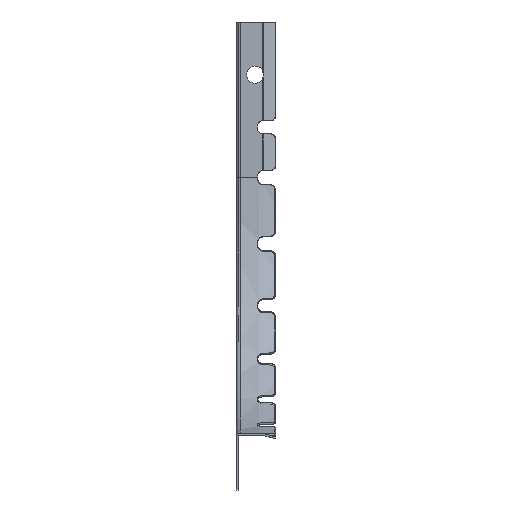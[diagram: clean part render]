
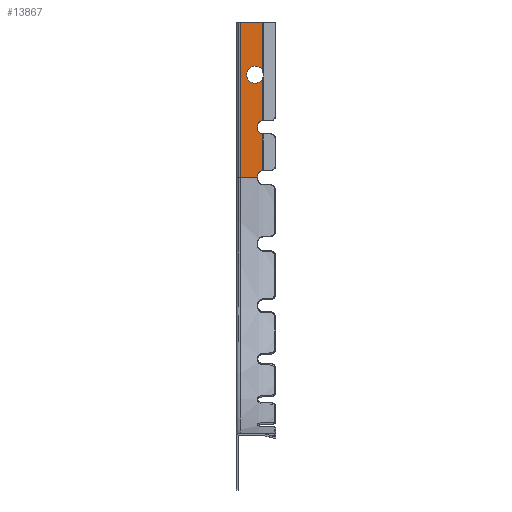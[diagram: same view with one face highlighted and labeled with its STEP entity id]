
A CAD part, left-side view. The second image highlights one B-rep face of the part: STEP entity #13867.
In plain terms, the highlighted planar face has unit normal (-1, 0, 0).
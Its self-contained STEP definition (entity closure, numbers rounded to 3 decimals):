
#2 = DIRECTION ( 'NONE',  ( 0., -1., 0. ) ) ;
#33 = EDGE_CURVE ( 'NONE', #15120, #4636, #12359, .T. ) ;
#83 = DIRECTION ( 'NONE',  ( 1., 0., 0. ) ) ;
#353 = DIRECTION ( 'NONE',  ( 0., 0., 1. ) ) ;
#453 = LINE ( 'NONE', #8797, #17325 ) ;
#481 = EDGE_CURVE ( 'NONE', #8565, #15120, #2479, .T. ) ;
#843 = AXIS2_PLACEMENT_3D ( 'NONE', #14091, #15526, #1682 ) ;
#1136 = DIRECTION ( 'NONE',  ( 0., 0., -1. ) ) ;
#1141 = ORIENTED_EDGE ( 'NONE', *, *, #10821, .F. ) ;
#1204 = VERTEX_POINT ( 'NONE', #4169 ) ;
#1403 = CARTESIAN_POINT ( 'NONE',  ( -50.7, -9.195, 207. ) ) ;
#1409 = ORIENTED_EDGE ( 'NONE', *, *, #33, .T. ) ;
#1564 = ORIENTED_EDGE ( 'NONE', *, *, #1765, .F. ) ;
#1682 = DIRECTION ( 'NONE',  ( 0., 0., -1. ) ) ;
#1765 = EDGE_CURVE ( 'NONE', #4780, #15911, #9040, .T. ) ;
#2211 = AXIS2_PLACEMENT_3D ( 'NONE', #12962, #14045, #4455 ) ;
#2285 = LINE ( 'NONE', #6476, #12717 ) ;
#2298 = ORIENTED_EDGE ( 'NONE', *, *, #8531, .T. ) ;
#2433 = CARTESIAN_POINT ( 'NONE',  ( -50.7, -9.195, 169.484 ) ) ;
#2479 = CIRCLE ( 'NONE', #11183, 3.25 ) ;
#2506 = EDGE_CURVE ( 'NONE', #4320, #9372, #11239, .T. ) ;
#2626 = VECTOR ( 'NONE', #8532, 1000. ) ;
#2680 = DIRECTION ( 'NONE',  ( 1., 0., 0. ) ) ;
#2842 = VERTEX_POINT ( 'NONE', #5324 ) ;
#2898 = LINE ( 'NONE', #13858, #14186 ) ;
#3580 = CARTESIAN_POINT ( 'NONE',  ( -50.7, -7.445, 148.01 ) ) ;
#3734 = DIRECTION ( 'NONE',  ( 1., 0., 0. ) ) ;
#3816 = CARTESIAN_POINT ( 'NONE',  ( -50.7, -6.445, 187. ) ) ;
#4021 = ORIENTED_EDGE ( 'NONE', *, *, #5912, .T. ) ;
#4158 = CARTESIAN_POINT ( 'NONE',  ( -50.7, -7.445, 148.51 ) ) ;
#4169 = CARTESIAN_POINT ( 'NONE',  ( -50.7, -9.195, 150.494 ) ) ;
#4320 = VERTEX_POINT ( 'NONE', #2433 ) ;
#4434 = CARTESIAN_POINT ( 'NONE',  ( -50.7, -6.445, 183.75 ) ) ;
#4455 = DIRECTION ( 'NONE',  ( 0., 0., -1. ) ) ;
#4537 = EDGE_CURVE ( 'NONE', #14136, #8565, #10925, .T. ) ;
#4636 = VERTEX_POINT ( 'NONE', #1403 ) ;
#4661 = ORIENTED_EDGE ( 'NONE', *, *, #8163, .F. ) ;
#4780 = VERTEX_POINT ( 'NONE', #3580 ) ;
#5236 = AXIS2_PLACEMENT_3D ( 'NONE', #16613, #83, #353 ) ;
#5270 = ORIENTED_EDGE ( 'NONE', *, *, #12569, .T. ) ;
#5324 = CARTESIAN_POINT ( 'NONE',  ( -50.7, -0.8, 207. ) ) ;
#5365 = FACE_OUTER_BOUND ( 'NONE', #15853, .T. ) ;
#5716 = DIRECTION ( 'NONE',  ( 0., 0., 1. ) ) ;
#5844 = ORIENTED_EDGE ( 'NONE', *, *, #4537, .T. ) ;
#5912 = EDGE_CURVE ( 'NONE', #4780, #13983, #8666, .T. ) ;
#5986 = CARTESIAN_POINT ( 'NONE',  ( -50.7, -9.195, 148.01 ) ) ;
#6136 = CARTESIAN_POINT ( 'NONE',  ( -50.7, -7.445, 145.51 ) ) ;
#6476 = CARTESIAN_POINT ( 'NONE',  ( -50.7, -0.8, 207. ) ) ;
#6493 = EDGE_CURVE ( 'NONE', #8827, #7922, #17799, .T. ) ;
#6722 = DIRECTION ( 'NONE',  ( 0., 0., 1. ) ) ;
#6770 = CARTESIAN_POINT ( 'NONE',  ( -50.7, -9.195, 188.733 ) ) ;
#6931 = ORIENTED_EDGE ( 'NONE', *, *, #9128, .T. ) ;
#7046 = DIRECTION ( 'NONE',  ( 0., 0., 1. ) ) ;
#7488 = CARTESIAN_POINT ( 'NONE',  ( -50.7, -9.195, 185.267 ) ) ;
#7756 = AXIS2_PLACEMENT_3D ( 'NONE', #8301, #14089, #7046 ) ;
#7916 = DIRECTION ( 'NONE',  ( 0., 0., 1. ) ) ;
#7922 = VERTEX_POINT ( 'NONE', #13195 ) ;
#8035 = ORIENTED_EDGE ( 'NONE', *, *, #10970, .T. ) ;
#8163 = EDGE_CURVE ( 'NONE', #15911, #2842, #2285, .T. ) ;
#8301 = CARTESIAN_POINT ( 'NONE',  ( -50.7, -6.445, 187. ) ) ;
#8311 = VECTOR ( 'NONE', #5716, 1000. ) ;
#8531 = EDGE_CURVE ( 'NONE', #14272, #4320, #14157, .T. ) ;
#8532 = DIRECTION ( 'NONE',  ( 0., 0., 1. ) ) ;
#8565 = VERTEX_POINT ( 'NONE', #12562 ) ;
#8666 = LINE ( 'NONE', #6136, #12394 ) ;
#8797 = CARTESIAN_POINT ( 'NONE',  ( -50.7, -7.445, 164.5 ) ) ;
#8827 = VERTEX_POINT ( 'NONE', #17435 ) ;
#9040 = LINE ( 'NONE', #13188, #12941 ) ;
#9128 = EDGE_CURVE ( 'NONE', #13983, #1204, #10140, .T. ) ;
#9372 = VERTEX_POINT ( 'NONE', #7488 ) ;
#9487 = ORIENTED_EDGE ( 'NONE', *, *, #481, .T. ) ;
#9650 = DIRECTION ( 'NONE',  ( 0., 0., 1. ) ) ;
#10116 = DIRECTION ( 'NONE',  ( 0., 0., 1. ) ) ;
#10140 = CIRCLE ( 'NONE', #14735, 2. ) ;
#10465 = DIRECTION ( 'NONE',  ( 0., 0., 1. ) ) ;
#10821 = EDGE_CURVE ( 'NONE', #2842, #4636, #2898, .T. ) ;
#10925 = CIRCLE ( 'NONE', #7756, 3.25 ) ;
#10970 = EDGE_CURVE ( 'NONE', #7922, #14272, #453, .T. ) ;
#11018 = CIRCLE ( 'NONE', #5236, 3.25 ) ;
#11183 = AXIS2_PLACEMENT_3D ( 'NONE', #3816, #14853, #6722 ) ;
#11239 = LINE ( 'NONE', #5986, #8311 ) ;
#11755 = DIRECTION ( 'NONE',  ( 0., 1., 0. ) ) ;
#12359 = LINE ( 'NONE', #14787, #12617 ) ;
#12394 = VECTOR ( 'NONE', #10116, 1000. ) ;
#12498 = AXIS2_PLACEMENT_3D ( 'NONE', #16377, #3734, #7916 ) ;
#12538 = ORIENTED_EDGE ( 'NONE', *, *, #17773, .T. ) ;
#12562 = CARTESIAN_POINT ( 'NONE',  ( -50.7, -6.445, 190.25 ) ) ;
#12569 = EDGE_CURVE ( 'NONE', #1204, #8827, #16548, .T. ) ;
#12617 = VECTOR ( 'NONE', #9650, 1000. ) ;
#12717 = VECTOR ( 'NONE', #10465, 1000. ) ;
#12941 = VECTOR ( 'NONE', #11755, 1000. ) ;
#12962 = CARTESIAN_POINT ( 'NONE',  ( -50.7, -9.445, 166.5 ) ) ;
#13188 = CARTESIAN_POINT ( 'NONE',  ( -50.7, 0., 148.01 ) ) ;
#13195 = CARTESIAN_POINT ( 'NONE',  ( -50.7, -7.445, 166.5 ) ) ;
#13427 = CARTESIAN_POINT ( 'NONE',  ( -50.7, -0.8, 148.01 ) ) ;
#13858 = CARTESIAN_POINT ( 'NONE',  ( -50.7, -9.3, 207. ) ) ;
#13867 = ADVANCED_FACE ( 'NONE', ( #5365 ), #16289, .F. ) ;
#13983 = VERTEX_POINT ( 'NONE', #4158 ) ;
#14045 = DIRECTION ( 'NONE',  ( 1., 0., 0. ) ) ;
#14089 = DIRECTION ( 'NONE',  ( 1., 0., 0. ) ) ;
#14091 = CARTESIAN_POINT ( 'NONE',  ( -50.7, -9.445, 167.5 ) ) ;
#14111 = ORIENTED_EDGE ( 'NONE', *, *, #6493, .T. ) ;
#14136 = VERTEX_POINT ( 'NONE', #4434 ) ;
#14157 = CIRCLE ( 'NONE', #843, 2. ) ;
#14186 = VECTOR ( 'NONE', #2, 1000. ) ;
#14272 = VERTEX_POINT ( 'NONE', #16198 ) ;
#14388 = DIRECTION ( 'NONE',  ( 0., 0., 1. ) ) ;
#14735 = AXIS2_PLACEMENT_3D ( 'NONE', #17681, #2680, #1136 ) ;
#14787 = CARTESIAN_POINT ( 'NONE',  ( -50.7, -9.195, 148.01 ) ) ;
#14853 = DIRECTION ( 'NONE',  ( 1., 0., 0. ) ) ;
#15120 = VERTEX_POINT ( 'NONE', #6770 ) ;
#15234 = ORIENTED_EDGE ( 'NONE', *, *, #2506, .T. ) ;
#15476 = CARTESIAN_POINT ( 'NONE',  ( -50.7, -9.195, 148.01 ) ) ;
#15526 = DIRECTION ( 'NONE',  ( 1., 0., 0. ) ) ;
#15853 = EDGE_LOOP ( 'NONE', ( #12538, #5844, #9487, #1409, #1141, #4661, #1564, #4021, #6931, #5270, #14111, #8035, #2298, #15234 ) ) ;
#15911 = VERTEX_POINT ( 'NONE', #13427 ) ;
#16198 = CARTESIAN_POINT ( 'NONE',  ( -50.7, -7.445, 167.5 ) ) ;
#16289 = PLANE ( 'NONE',  #12498 ) ;
#16377 = CARTESIAN_POINT ( 'NONE',  ( -50.7, 0., 207. ) ) ;
#16548 = LINE ( 'NONE', #15476, #2626 ) ;
#16613 = CARTESIAN_POINT ( 'NONE',  ( -50.7, -6.445, 187. ) ) ;
#17325 = VECTOR ( 'NONE', #14388, 1000. ) ;
#17435 = CARTESIAN_POINT ( 'NONE',  ( -50.7, -9.195, 164.516 ) ) ;
#17681 = CARTESIAN_POINT ( 'NONE',  ( -50.7, -9.445, 148.51 ) ) ;
#17773 = EDGE_CURVE ( 'NONE', #9372, #14136, #11018, .T. ) ;
#17799 = CIRCLE ( 'NONE', #2211, 2. ) ;
